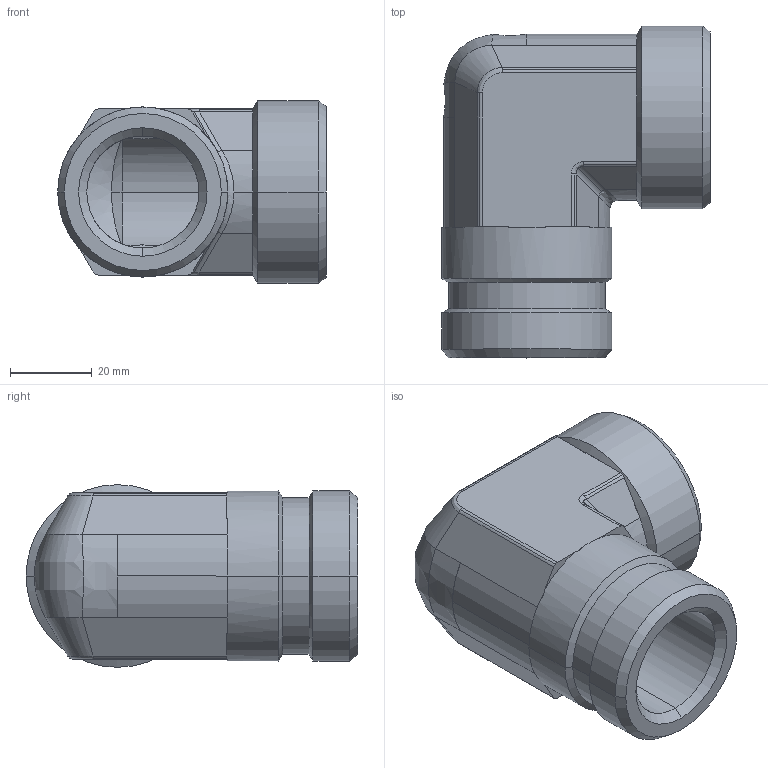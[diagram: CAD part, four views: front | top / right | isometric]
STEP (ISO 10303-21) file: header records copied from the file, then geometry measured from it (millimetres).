
FILE_DESCRIPTION((''),'2;1');
FILE_NAME('106112.stp','2007-10-31T14:50:17',(''),(''),'AutoCAD STEP 2000i','AutoCAD 2000i',', , ');
FILE_SCHEMA(('CONFIG_CONTROL_DESIGN'));
Length unit declared in the file: millimetre
Products named in the file (2): 106112.0; 3090#0
Assembly tree (1 placements, depth 2):
  106112.0
    3090#0
Bounding box: 65.86 x 81.41 x 44.82 mm (x, y, z)
Volume: 74581.5 mm3; surface area: 24925.4 mm2
Topology: 1 solids, 1 shells, 108 faces, 257 edges, 154 vertices
Faces by surface type: cylinder 46, plane 29, cone 21, bspline 12
Entity records: 4085 total; most frequent: CARTESIAN_POINT 1486, DIRECTION 542, ORIENTED_EDGE 514, EDGE_CURVE 257, AXIS2_PLACEMENT_3D 216, VERTEX_POINT 154, EDGE_LOOP 113, VECTOR 110
